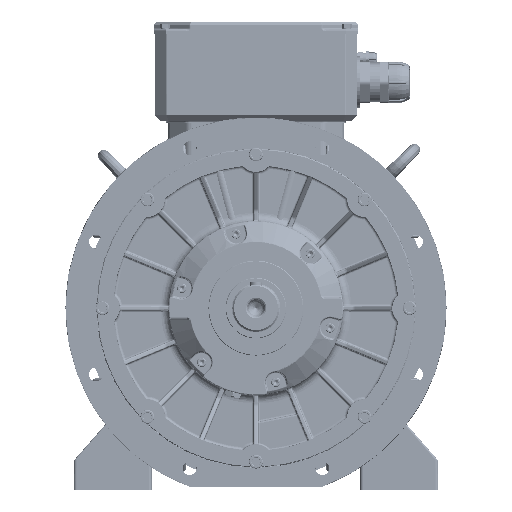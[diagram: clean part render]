
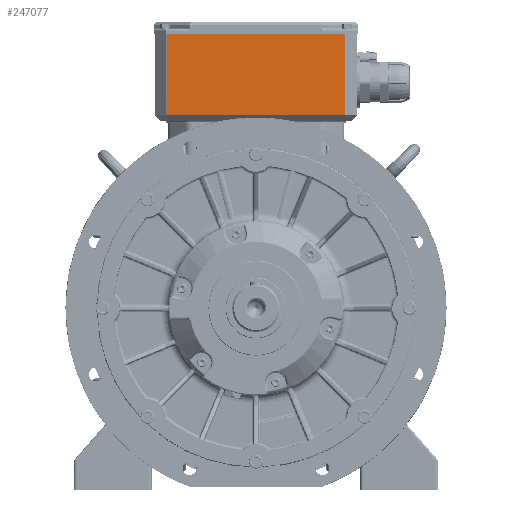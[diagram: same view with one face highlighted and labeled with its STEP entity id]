
A CAD part, front view. The second image highlights one B-rep face of the part: STEP entity #247077.
In plain terms, the highlighted planar face has unit normal (0, -1, 0).
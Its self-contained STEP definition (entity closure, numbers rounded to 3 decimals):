
#60053=ORIENTED_EDGE('',*,*,#87979,.T.);
#60054=ORIENTED_EDGE('',*,*,#88041,.T.);
#60055=ORIENTED_EDGE('',*,*,#88042,.T.);
#60056=ORIENTED_EDGE('',*,*,#88034,.T.);
#87979=EDGE_CURVE('',#105262,#105261,#122116,.F.);
#88034=EDGE_CURVE('',#105297,#105262,#122148,.T.);
#88041=EDGE_CURVE('',#105261,#105301,#122153,.T.);
#88042=EDGE_CURVE('',#105301,#105297,#122154,.T.);
#105261=VERTEX_POINT('',#388148);
#105262=VERTEX_POINT('',#388150);
#105297=VERTEX_POINT('',#388259);
#105301=VERTEX_POINT('',#388273);
#122116=LINE('',#388149,#138169);
#122148=LINE('',#388258,#138201);
#122153=LINE('',#388272,#138206);
#122154=LINE('',#388274,#138207);
#138169=VECTOR('',#305295,1000.);
#138201=VECTOR('',#305411,1000.);
#138206=VECTOR('',#305426,1000.);
#138207=VECTOR('',#305427,1000.);
#150180=EDGE_LOOP('',(#60053,#60054,#60055,#60056));
#162764=FACE_BOUND('',#150180,.T.);
#169161=PLANE('',#261496);
#247077=ADVANCED_FACE('',(#162764),#169161,.T.);
#261496=AXIS2_PLACEMENT_3D('',#388271,#305424,#305425);
#305295=DIRECTION('',(0.,0.,-1.));
#305411=DIRECTION('',(1.,0.,0.));
#305424=DIRECTION('',(0.,-1.,0.));
#305425=DIRECTION('',(1.,0.,0.));
#305426=DIRECTION('',(-1.,0.,0.));
#305427=DIRECTION('',(0.,0.,-1.));
#388148=CARTESIAN_POINT('',(153.757,40.,474.));
#388149=CARTESIAN_POINT('',(153.757,40.,476.5));
#388150=CARTESIAN_POINT('',(153.757,40.,334.));
#388258=CARTESIAN_POINT('',(155.,40.,334.));
#388259=CARTESIAN_POINT('',(-153.757,40.,334.));
#388271=CARTESIAN_POINT('',(155.,40.,476.5));
#388272=CARTESIAN_POINT('',(-189.445,40.,474.));
#388273=CARTESIAN_POINT('',(-153.757,40.,474.));
#388274=CARTESIAN_POINT('',(-153.757,40.,476.5));
